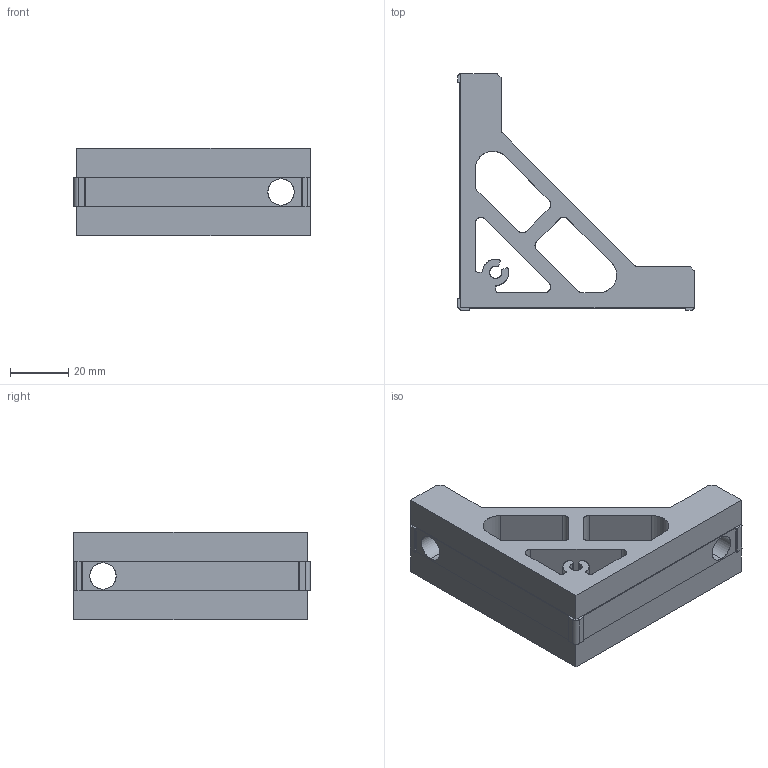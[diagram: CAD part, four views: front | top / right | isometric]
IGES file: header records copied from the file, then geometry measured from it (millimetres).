
Start section: SolidWorks IGES file using analytic representation for surfaces
Global section: file name: C:\Documents and Settings\ImaruA\デスクトップ\HPNew Item Data\SF\SF IGS\SFJ-N65.IGS; native system: SolidWorks 2007; preprocessor: SolidWorks 2007; author: ImaruA; date: 080909.143319; units: millimetre
Bounding box: 81 x 81 x 30 mm (x, y, z)
Surface area: 21533.3 mm2 (no closed solid volume)
Topology: 0 solids, 0 shells, 82 faces, 928 edges, 928 vertices
Faces by surface type: revolution 42, bspline 40
